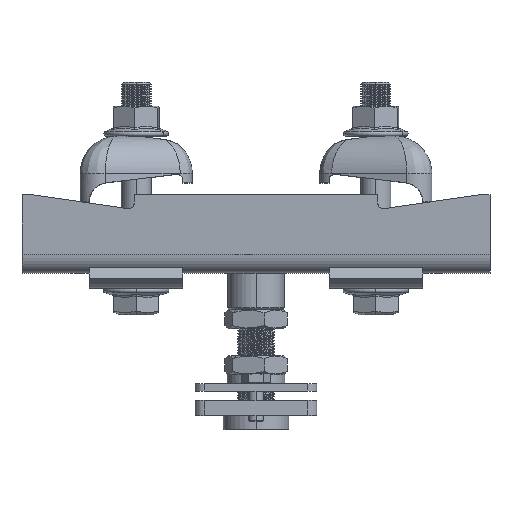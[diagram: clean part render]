
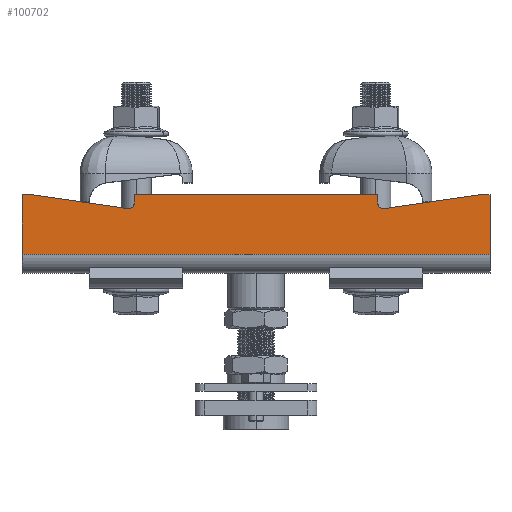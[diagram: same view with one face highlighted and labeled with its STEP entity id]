
A CAD part, top view. The second image highlights one B-rep face of the part: STEP entity #100702.
In plain terms, the highlighted planar face has unit normal (0, 0, 1).
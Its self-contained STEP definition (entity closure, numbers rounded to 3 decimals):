
#53 = LINE ( 'NONE', #4743, #159194 ) ;
#1251 = DIRECTION ( 'NONE',  ( 0., 0., 1. ) ) ;
#2815 = CARTESIAN_POINT ( 'NONE',  ( -151.556, -4.425, 284. ) ) ;
#4743 = CARTESIAN_POINT ( 'NONE',  ( 98.444, -14.425, 284. ) ) ;
#5122 = EDGE_CURVE ( 'NONE', #20451, #84931, #93887, .T. ) ;
#6697 = DIRECTION ( 'NONE',  ( 0., 1., 0. ) ) ;
#7784 = DIRECTION ( 'NONE',  ( -1., 0., 0. ) ) ;
#9681 = DIRECTION ( 'NONE',  ( -1., 0., 0. ) ) ;
#10392 = LINE ( 'NONE', #87731, #94635 ) ;
#12524 = ORIENTED_EDGE ( 'NONE', *, *, #59957, .T. ) ;
#13176 = LINE ( 'NONE', #67239, #25025 ) ;
#16936 = DIRECTION ( 'NONE',  ( 1., 0., 0. ) ) ;
#20451 = VERTEX_POINT ( 'NONE', #52638 ) ;
#25025 = VECTOR ( 'NONE', #9681, 1000. ) ;
#29923 = CARTESIAN_POINT ( 'NONE',  ( -151.556, 27.575, 284. ) ) ;
#30181 = VECTOR ( 'NONE', #7784, 1000. ) ;
#31869 = ORIENTED_EDGE ( 'NONE', *, *, #116503, .T. ) ;
#32155 = VERTEX_POINT ( 'NONE', #41850 ) ;
#34389 = CARTESIAN_POINT ( 'NONE',  ( 38.444, 27.575, 284. ) ) ;
#36433 = CARTESIAN_POINT ( 'NONE',  ( 98.444, 27.575, 284. ) ) ;
#38560 = LINE ( 'NONE', #98567, #171974 ) ;
#39367 = CARTESIAN_POINT ( 'NONE',  ( 98.444, -4.425, 284. ) ) ;
#39812 = VERTEX_POINT ( 'NONE', #34389 ) ;
#41850 = CARTESIAN_POINT ( 'NONE',  ( -146.556, 27.575, 284. ) ) ;
#45369 = LINE ( 'NONE', #81596, #59412 ) ;
#49584 = EDGE_CURVE ( 'NONE', #193483, #32155, #50819, .T. ) ;
#50125 = DIRECTION ( 'NONE',  ( 0., 0., -1. ) ) ;
#50819 = LINE ( 'NONE', #186547, #156096 ) ;
#51159 = DIRECTION ( 'NONE',  ( -0.99, 0.144, 0. ) ) ;
#52638 = CARTESIAN_POINT ( 'NONE',  ( -91.556, 27.575, 284. ) ) ;
#53649 = CARTESIAN_POINT ( 'NONE',  ( 38.444, 23.043, 284. ) ) ;
#53759 = VERTEX_POINT ( 'NONE', #39367 ) ;
#54082 = VECTOR ( 'NONE', #174608, 1000. ) ;
#55721 = VERTEX_POINT ( 'NONE', #36433 ) ;
#58047 = CARTESIAN_POINT ( 'NONE',  ( -94.988, 20.074, 284. ) ) ;
#59412 = VECTOR ( 'NONE', #97286, 1000. ) ;
#59957 = EDGE_CURVE ( 'NONE', #181200, #39812, #45369, .T. ) ;
#66970 = AXIS2_PLACEMENT_3D ( 'NONE', #67139, #111633, #173708 ) ;
#67139 = CARTESIAN_POINT ( 'NONE',  ( 41.444, 23.043, 284. ) ) ;
#67239 = CARTESIAN_POINT ( 'NONE',  ( 98.444, 27.575, 284. ) ) ;
#73585 = AXIS2_PLACEMENT_3D ( 'NONE', #137115, #50125, #93308 ) ;
#75787 = CARTESIAN_POINT ( 'NONE',  ( 41.444, 23.043, 284. ) ) ;
#76430 = PLANE ( 'NONE',  #166354 ) ;
#77041 = VERTEX_POINT ( 'NONE', #86363 ) ;
#81596 = CARTESIAN_POINT ( 'NONE',  ( 38.444, 27.575, 284. ) ) ;
#82437 = CARTESIAN_POINT ( 'NONE',  ( -91.556, 23.043, 284. ) ) ;
#82916 = ORIENTED_EDGE ( 'NONE', *, *, #184976, .T. ) ;
#83931 = ORIENTED_EDGE ( 'NONE', *, *, #156566, .T. ) ;
#84714 = VERTEX_POINT ( 'NONE', #95318 ) ;
#84931 = VERTEX_POINT ( 'NONE', #111645 ) ;
#86363 = CARTESIAN_POINT ( 'NONE',  ( -151.556, -4.425, 284. ) ) ;
#87731 = CARTESIAN_POINT ( 'NONE',  ( -91.556, 27.575, 284. ) ) ;
#93308 = DIRECTION ( 'NONE',  ( 1., 0., 0. ) ) ;
#93887 = LINE ( 'NONE', #82437, #54082 ) ;
#94635 = VECTOR ( 'NONE', #145948, 1000. ) ;
#95318 = CARTESIAN_POINT ( 'NONE',  ( 41.875, 20.074, 284. ) ) ;
#96229 = CARTESIAN_POINT ( 'NONE',  ( 98.444, -4.425, 284. ) ) ;
#97286 = DIRECTION ( 'NONE',  ( 0., 1., 0. ) ) ;
#97373 = CARTESIAN_POINT ( 'NONE',  ( -151.556, 27.575, 284. ) ) ;
#98567 = CARTESIAN_POINT ( 'NONE',  ( 41.875, 20.074, 284. ) ) ;
#100131 = LINE ( 'NONE', #96229, #107014 ) ;
#100702 = ADVANCED_FACE ( 'NONE', ( #180520 ), #76430, .T. ) ;
#104359 = CIRCLE ( 'NONE', #73585, 3. ) ;
#107014 = VECTOR ( 'NONE', #113200, 1000. ) ;
#109878 = EDGE_CURVE ( 'NONE', #53759, #55721, #53, .T. ) ;
#111633 = DIRECTION ( 'NONE',  ( 0., 0., -1. ) ) ;
#111645 = CARTESIAN_POINT ( 'NONE',  ( -91.556, 23.043, 284. ) ) ;
#113200 = DIRECTION ( 'NONE',  ( 1., 0., 0. ) ) ;
#116503 = EDGE_CURVE ( 'NONE', #193648, #77041, #143314, .T. ) ;
#122293 = ORIENTED_EDGE ( 'NONE', *, *, #129407, .T. ) ;
#123891 = EDGE_CURVE ( 'NONE', #84714, #181200, #161715, .T. ) ;
#126729 = DIRECTION ( 'NONE',  ( -0.99, -0.144, 0. ) ) ;
#127021 = ORIENTED_EDGE ( 'NONE', *, *, #109878, .T. ) ;
#128522 = CARTESIAN_POINT ( 'NONE',  ( 93.444, 27.575, 284. ) ) ;
#129245 = VECTOR ( 'NONE', #153205, 1000. ) ;
#129407 = EDGE_CURVE ( 'NONE', #32155, #193648, #151936, .T. ) ;
#137115 = CARTESIAN_POINT ( 'NONE',  ( -94.556, 23.043, 284. ) ) ;
#143314 = LINE ( 'NONE', #2815, #129245 ) ;
#145948 = DIRECTION ( 'NONE',  ( -1., 0., 0. ) ) ;
#151936 = LINE ( 'NONE', #97373, #30181 ) ;
#153205 = DIRECTION ( 'NONE',  ( 0., -1., 0. ) ) ;
#156096 = VECTOR ( 'NONE', #51159, 1000. ) ;
#156566 = EDGE_CURVE ( 'NONE', #39812, #20451, #10392, .T. ) ;
#157531 = ORIENTED_EDGE ( 'NONE', *, *, #5122, .T. ) ;
#159194 = VECTOR ( 'NONE', #6697, 1000. ) ;
#160965 = VERTEX_POINT ( 'NONE', #128522 ) ;
#161715 = CIRCLE ( 'NONE', #66970, 3. ) ;
#166354 = AXIS2_PLACEMENT_3D ( 'NONE', #75787, #1251, #16936 ) ;
#168590 = ORIENTED_EDGE ( 'NONE', *, *, #49584, .T. ) ;
#171974 = VECTOR ( 'NONE', #126729, 1000. ) ;
#173264 = ORIENTED_EDGE ( 'NONE', *, *, #181192, .T. ) ;
#173708 = DIRECTION ( 'NONE',  ( 1., 0., 0. ) ) ;
#174608 = DIRECTION ( 'NONE',  ( 0., -1., 0. ) ) ;
#174792 = EDGE_LOOP ( 'NONE', ( #31869, #173264, #127021, #82916, #176778, #185130, #12524, #83931, #157531, #176284, #168590, #122293 ) ) ;
#176284 = ORIENTED_EDGE ( 'NONE', *, *, #187059, .T. ) ;
#176778 = ORIENTED_EDGE ( 'NONE', *, *, #191309, .T. ) ;
#180520 = FACE_OUTER_BOUND ( 'NONE', #174792, .T. ) ;
#181192 = EDGE_CURVE ( 'NONE', #77041, #53759, #100131, .T. ) ;
#181200 = VERTEX_POINT ( 'NONE', #53649 ) ;
#184976 = EDGE_CURVE ( 'NONE', #55721, #160965, #13176, .T. ) ;
#185130 = ORIENTED_EDGE ( 'NONE', *, *, #123891, .T. ) ;
#186547 = CARTESIAN_POINT ( 'NONE',  ( -146.556, 27.575, 284. ) ) ;
#187059 = EDGE_CURVE ( 'NONE', #84931, #193483, #104359, .T. ) ;
#191309 = EDGE_CURVE ( 'NONE', #160965, #84714, #38560, .T. ) ;
#193483 = VERTEX_POINT ( 'NONE', #58047 ) ;
#193648 = VERTEX_POINT ( 'NONE', #29923 ) ;
